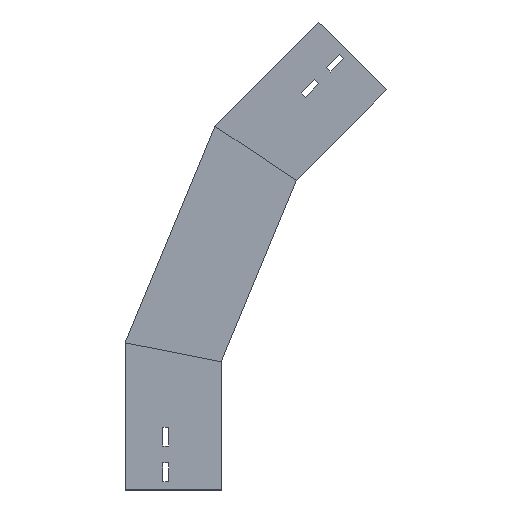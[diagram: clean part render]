
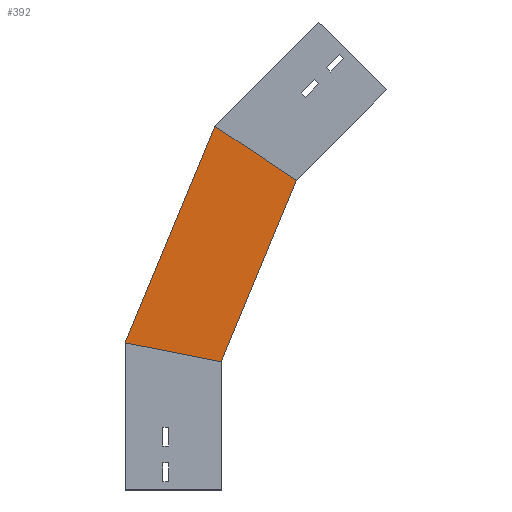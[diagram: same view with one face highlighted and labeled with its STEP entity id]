
A CAD part, left-side view. The second image highlights one B-rep face of the part: STEP entity #392.
In plain terms, the highlighted planar face has unit normal (-1, 0, 0) as drawn and (1, 0, 0) by its records, which use the part's own axes.
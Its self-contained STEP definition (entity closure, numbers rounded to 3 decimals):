
#15 = VECTOR ( 'NONE', #762, 1000. ) ;
#20 = CARTESIAN_POINT ( 'NONE',  ( 0., 9.458, 127.166 ) ) ;
#61 = EDGE_CURVE ( 'NONE', #486, #1389, #1259, .T. ) ;
#71 = ORIENTED_EDGE ( 'NONE', *, *, #61, .T. ) ;
#128 = AXIS2_PLACEMENT_3D ( 'NONE', #20, #847, #1314 ) ;
#258 = DIRECTION ( 'NONE',  ( 0., -0.383, 0.924 ) ) ;
#317 = CARTESIAN_POINT ( 'NONE',  ( 0., -28.701, 144.291 ) ) ;
#333 = CARTESIAN_POINT ( 'NONE',  ( 0., 0., 150. ) ) ;
#392 = ADVANCED_FACE ( 'NONE', ( #1193 ), #953, .T. ) ;
#405 = VECTOR ( 'NONE', #901, 1000. ) ;
#438 = DIRECTION ( 'NONE',  ( 0., -0.981, -0.195 ) ) ;
#464 = CARTESIAN_POINT ( 'NONE',  ( 0., 9.458, 127.166 ) ) ;
#486 = VERTEX_POINT ( 'NONE', #489 ) ;
#489 = CARTESIAN_POINT ( 'NONE',  ( 0., 112.5, 172.378 ) ) ;
#525 = VERTEX_POINT ( 'NONE', #333 ) ;
#573 = CARTESIAN_POINT ( 'NONE',  ( 0., 7.356, 426.218 ) ) ;
#669 = VECTOR ( 'NONE', #258, 1000. ) ;
#717 = CARTESIAN_POINT ( 'NONE',  ( 0., -88.017, 362.492 ) ) ;
#762 = DIRECTION ( 'NONE',  ( 0., -0.831, -0.556 ) ) ;
#775 = ORIENTED_EDGE ( 'NONE', *, *, #951, .F. ) ;
#847 = DIRECTION ( 'NONE',  ( 1., 0., 0. ) ) ;
#857 = ORIENTED_EDGE ( 'NONE', *, *, #1248, .T. ) ;
#880 = ORIENTED_EDGE ( 'NONE', *, *, #1085, .F. ) ;
#891 = VECTOR ( 'NONE', #438, 1000. ) ;
#901 = DIRECTION ( 'NONE',  ( 0., -0.383, 0.924 ) ) ;
#951 = EDGE_CURVE ( 'NONE', #486, #525, #1106, .T. ) ;
#953 = PLANE ( 'NONE',  #128 ) ;
#956 = EDGE_LOOP ( 'NONE', ( #71, #857, #880, #775 ) ) ;
#957 = CARTESIAN_POINT ( 'NONE',  ( 0., 113.395, 170.218 ) ) ;
#975 = LINE ( 'NONE', #1426, #15 ) ;
#1085 = EDGE_CURVE ( 'NONE', #525, #1158, #1218, .T. ) ;
#1106 = LINE ( 'NONE', #317, #891 ) ;
#1158 = VERTEX_POINT ( 'NONE', #717 ) ;
#1193 = FACE_OUTER_BOUND ( 'NONE', #956, .T. ) ;
#1218 = LINE ( 'NONE', #464, #405 ) ;
#1248 = EDGE_CURVE ( 'NONE', #1389, #1158, #975, .T. ) ;
#1259 = LINE ( 'NONE', #957, #669 ) ;
#1314 = DIRECTION ( 'NONE',  ( 0., 0., -1. ) ) ;
#1389 = VERTEX_POINT ( 'NONE', #573 ) ;
#1426 = CARTESIAN_POINT ( 'NONE',  ( 0., -129.335, 334.885 ) ) ;
